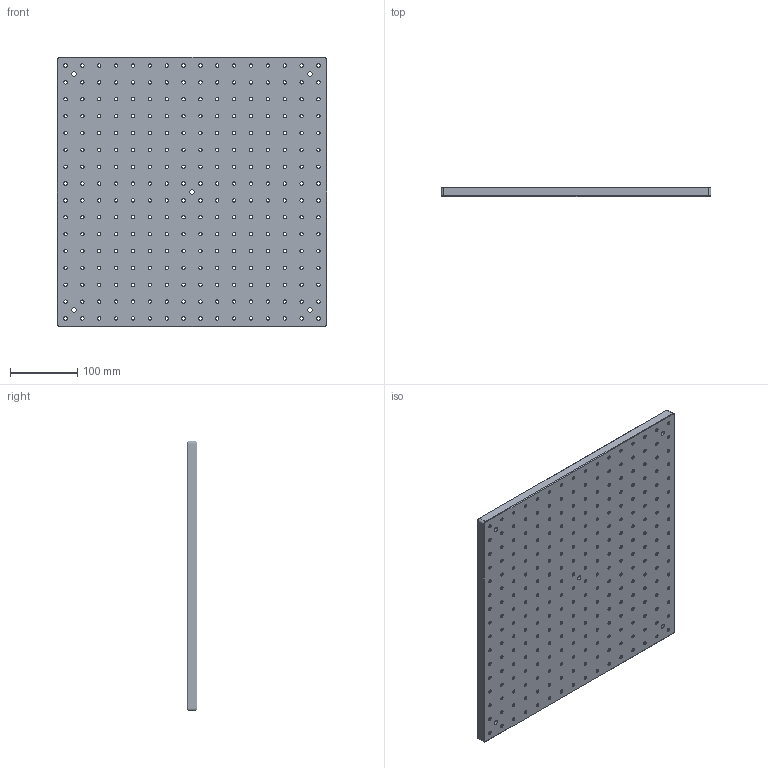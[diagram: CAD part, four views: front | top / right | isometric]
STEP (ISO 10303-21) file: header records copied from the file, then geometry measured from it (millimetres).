
FILE_DESCRIPTION((''),'2;1');
FILE_NAME('MBB-400X400-01_ASM','2024-01-18T14:26:19',('R&D'),(''),'CREO PARAMETRIC BY PTC INC, 2021063','CREO PARAMETRIC BY PTC INC, 2021063','');
FILE_SCHEMA(('CONFIG_CONTROL_DESIGN'));
Length unit declared in the file: millimetre
Products named in the file (2): MBB-400X400-01-1; MBB-400X400-01_ASM
Assembly tree (1 placements, depth 2):
  MBB-400X400-01_ASM
    MBB-400X400-01-1
Bounding box: 400 x 14 x 400 mm (x, y, z)
Volume: 2160987.1 mm3; surface area: 446244.3 mm2
Topology: 1 solids, 257 shells, 1853 faces, 4744 edges, 3154 vertices
Faces by surface type: cylinder 1048, cone 530, plane 275
Entity records: 58364 total; most frequent: DIRECTION 11598, CARTESIAN_POINT 9756, ORIENTED_EDGE 8464, AXIS2_PLACEMENT_3D 4996, EDGE_CURVE 4744, VERTEX_POINT 3154, CIRCLE 3138, EDGE_LOOP 2636
